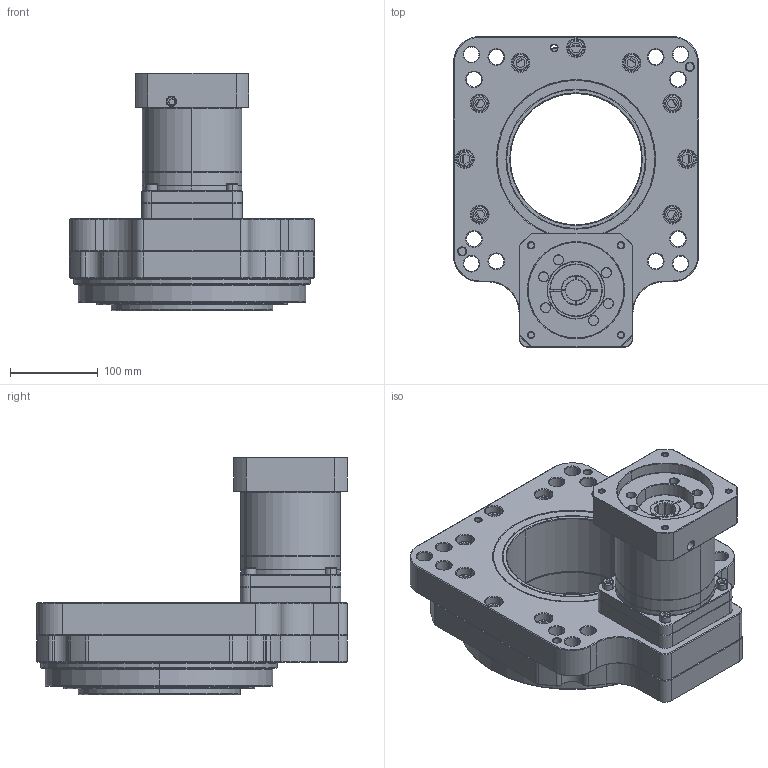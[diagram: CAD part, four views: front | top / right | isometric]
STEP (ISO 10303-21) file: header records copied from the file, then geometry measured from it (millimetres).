
FILE_DESCRIPTION (( 'STEP AP203' ), '1' );
FILE_NAME ('2.STEP', '2022-08-09T05:19:52', ( '' ), ( '' ), 'SwSTEP 2.0', 'SolidWorks 2020', '' );
FILE_SCHEMA (( 'CONFIG_CONTROL_DESIGN' ));
Length unit declared in the file: millimetre
Products named in the file (1): 2
Bounding box: 280 x 355 x 270.95 mm (x, y, z)
Surface area: 602533.3 mm2 (no closed solid volume)
Topology: 0 solids, 88 shells, 1414 faces, 4263 edges, 2872 vertices
Faces by surface type: plane 502, cone 392, cylinder 353, torus 163, bspline 4
Entity records: 49216 total; most frequent: CARTESIAN_POINT 9896, DIRECTION 8959, ORIENTED_EDGE 7003, EDGE_CURVE 4235, AXIS2_PLACEMENT_3D 3417, VERTEX_POINT 2872, LINE 2125, VECTOR 2125
